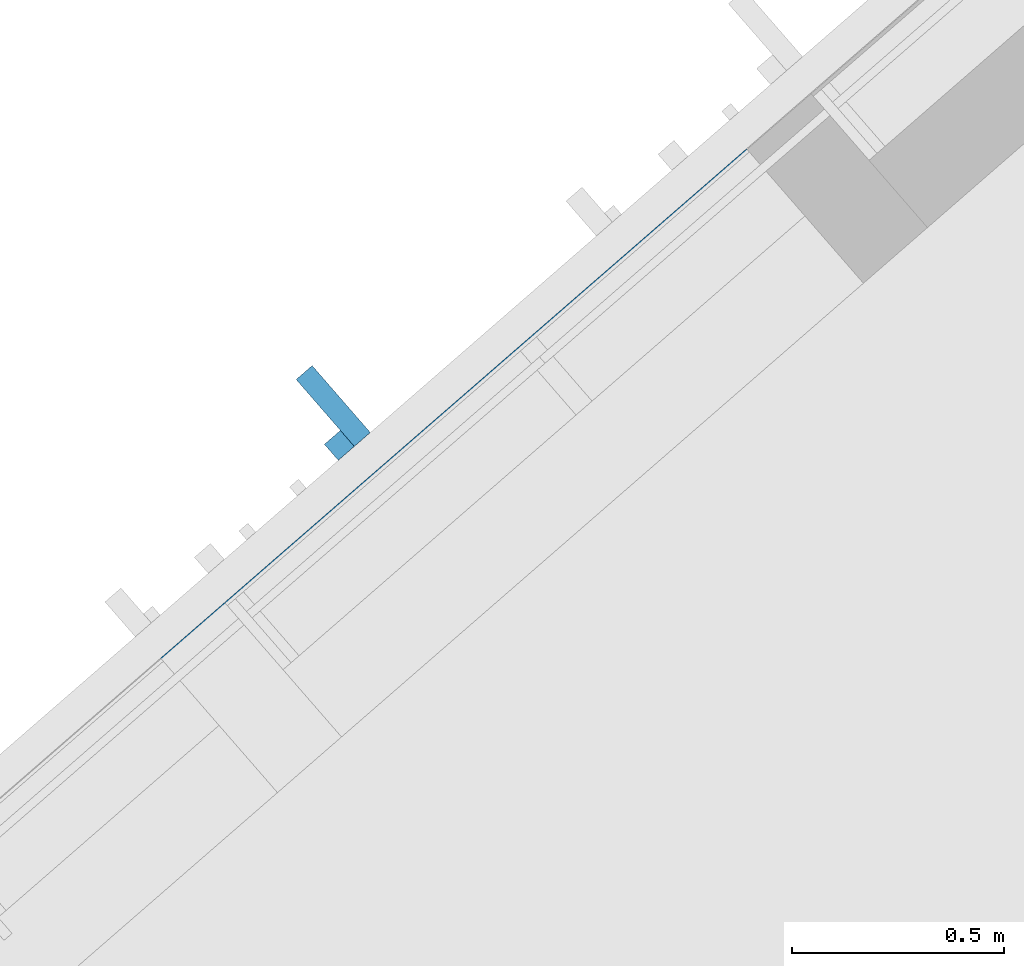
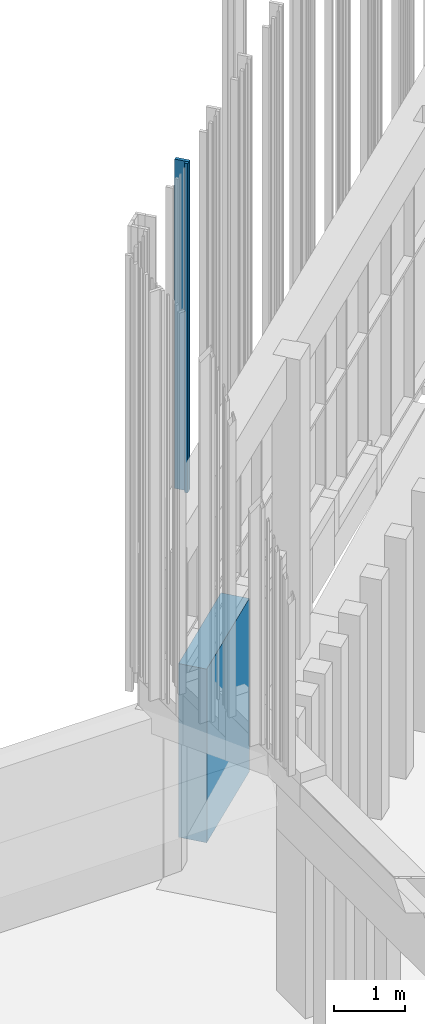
# One storey, part 134 of 390: 3 walls.
"""IFC2X3 building model written with IfcOpenShell, lengths in millimetres."""

from ifc_helpers import new_model, entity, si_unit, converted_unit, derived_unit, money_unit, direction, frame, origin_with_axes, place, context, subcontext, project, spatial, faceted_brep, material, material_list, type_object, element, save


model = new_model("IFC2X3")

# Units and contexts
model_context = context("Model", 3, precision=1e-05, world=origin_with_axes(), true_north=direction((0.0, 1.0)))
body_context = subcontext(model_context, "Body", "Model", "MODEL_VIEW")
ifc_project = project(units=[si_unit("LENGTHUNIT", "METRE", prefix="MILLI"), si_unit("AREAUNIT", "SQUARE_METRE"), si_unit("VOLUMEUNIT", "CUBIC_METRE"), converted_unit("PLANEANGLEUNIT", "DEGREE", entity("IfcPlaneAngleMeasure", 0.0174532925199), si_unit("PLANEANGLEUNIT", "RADIAN"), dimensions=[0, 0, 0, 0, 0, 0, 0]), si_unit("SOLIDANGLEUNIT", "STERADIAN"), money_unit("EUR"), converted_unit("TIMEUNIT", "Year", entity("IfcTimeMeasure", 31556926.0), si_unit("TIMEUNIT", "SECOND"), dimensions=[0, 0, 1, 0, 0, 0, 0]), si_unit("MASSUNIT", "GRAM", prefix="KILO"), si_unit("THERMODYNAMICTEMPERATUREUNIT", "DEGREE_CELSIUS"), si_unit("LUMINOUSINTENSITYUNIT", "LUMEN"), si_unit("ENERGYUNIT", "JOULE", prefix="MEGA"), derived_unit("THERMALCONDUCTANCEUNIT", [(si_unit("POWERUNIT", "WATT"), 1), (si_unit("LENGTHUNIT", "METRE"), -1), (si_unit("THERMODYNAMICTEMPERATUREUNIT", "KELVIN"), -1)]), derived_unit("SPECIFICHEATCAPACITYUNIT", [(si_unit("ENERGYUNIT", "JOULE"), 1), (si_unit("MASSUNIT", "GRAM", prefix="KILO"), -1), (si_unit("THERMODYNAMICTEMPERATUREUNIT", "KELVIN"), -1)]), derived_unit("MASSDENSITYUNIT", [(si_unit("MASSUNIT", "GRAM", prefix="KILO"), 1), (si_unit("VOLUMEUNIT", "CUBIC_METRE"), -1)])], contexts=[model_context])

# Site, building, storey
site_placement = place(None, origin_with_axes())
site = spatial("IfcSite", under=ifc_project, at=site_placement, Name="Site", CompositionType="ELEMENT")
building_placement = place(site_placement, origin_with_axes())
building = spatial("IfcBuilding", under=site, at=building_placement, Name="Building", CompositionType="ELEMENT")
storey_placement = place(building_placement, origin_with_axes())
storey = spatial("IfcBuildingStorey", under=building, at=storey_placement, Name="1 korrus", CompositionType="ELEMENT", Elevation=0.0)

# Walls
ifc_material_1 = material(Name="Krohv - Lubjakivi")
ifc_material_2 = material(Name="Raudbetoon - Konstruktsioon")
ifc_material_3 = material(Name="Soojustus - Plastik Kõva")
ifc_material_4 = material(Name="Membraan - Veekindel")
ifc_material_list = material_list([ifc_material_1, ifc_material_2, ifc_material_3, ifc_material_3, ifc_material_4, ifc_material_4])
wall_type_1 = type_object("IfcWallType", Name="VS-03", PredefinedType="NOTDEFINED")
wall_1_placement = place(storey_placement, frame((125468.871648, 78413.1851766, -1220.0), z_axis=(0.0, 0.0, 1.0), x_axis=(-0.754709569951, -0.656059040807, 0.0)))
element("IfcWall", 1, at=wall_1_placement, inside=storey, type_object=wall_type_1, material=ifc_material_list, Name="VS-03", context=body_context, shape_type="Brep", body=[
    faceted_brep([(1829.99999353, -10.0, 2970.0), (1829.99999353, 0.0, 2970.0), (0.0, 0.0, 2970.0), (0.0, -9.99999999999, 2970.0), (1829.99999353, -10.0, 0.0), (1829.99999353, 0.0, 0.0), (0.0, 0.0, 0.0), (0.0, -9.99999999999, 0.0)], [[[0, 1, 2, 3]], [[0, 4, 5, 1]], [[1, 5, 6, 2]], [[3, 2, 6, 7]], [[4, 0, 3, 7]], [[5, 4, 7, 6]]]),
    faceted_brep([(1829.99999353, -210.0, 2970.0), (1829.99999353, -10.0, 2970.0), (0.0, -9.99999999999, 2970.0), (0.0, -210.0, 2970.0), (1829.99999353, -210.0, 0.0), (1829.99999353, -10.0, 0.0), (0.0, -9.99999999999, 0.0), (0.0, -210.0, 0.0)], [[[0, 1, 2, 3]], [[0, 4, 5, 1]], [[1, 5, 6, 2]], [[3, 2, 6, 7]], [[4, 0, 3, 7]], [[5, 4, 7, 6]]]),
    faceted_brep([(1829.99999353, -360.0, 2970.0), (1829.99999353, -210.0, 2970.0), (0.0, -210.0, 2970.0), (0.0, -360.0, 2970.0), (1829.99999353, -360.0, 0.0), (1829.99999353, -210.0, 0.0), (0.0, -210.0, 0.0), (0.0, -360.0, 0.0)], [[[0, 1, 2, 3]], [[0, 4, 5, 1]], [[1, 5, 6, 2]], [[3, 2, 6, 7]], [[4, 0, 3, 7]], [[5, 4, 7, 6]]]),
    faceted_brep([(1829.99999353, -410.0, 2970.0), (1829.99999353, -360.0, 2970.0), (0.0, -360.0, 2970.0), (0.0, -410.0, 2970.0), (1829.99999353, -410.0, 0.0), (1829.99999353, -360.0, 0.0), (0.0, -360.0, 0.0), (0.0, -410.0, 0.0)], [[[0, 1, 2, 3]], [[0, 4, 5, 1]], [[1, 5, 6, 2]], [[3, 2, 6, 7]], [[4, 0, 3, 7]], [[5, 4, 7, 6]]]),
    faceted_brep([(1829.99999353, -415.0, 2970.0), (1829.99999353, -410.0, 2970.0), (0.0, -410.0, 2970.0), (0.0, -415.0, 2970.0), (1829.99999353, -415.0, 0.0), (1829.99999353, -410.0, 0.0), (0.0, -410.0, 0.0), (0.0, -415.0, 0.0)], [[[0, 1, 2, 3]], [[0, 4, 5, 1]], [[1, 5, 6, 2]], [[3, 2, 6, 7]], [[4, 0, 3, 7]], [[5, 4, 7, 6]]]),
    faceted_brep([(1829.99999353, -420.0, 2970.0), (1829.99999353, -415.0, 2970.0), (0.0, -415.0, 2970.0), (0.0, -420.0, 2970.0), (1829.99999353, -420.0, 0.0), (1829.99999353, -415.0, 0.0), (0.0, -415.0, 0.0), (0.0, -420.0, 0.0)], [[[0, 1, 2, 3]], [[0, 4, 5, 1]], [[1, 5, 6, 2]], [[3, 2, 6, 7]], [[4, 0, 3, 7]], [[5, 4, 7, 6]]]),
])
ifc_material_5 = material(Name="Site specified")
wall_type_2 = type_object("IfcWallType", Name="Puitfassaadi ribistik", PredefinedType="NOTDEFINED")
wall_2_placement = place(storey_placement, frame((124233.587433, 78031.0257324, 4235.01600461), z_axis=(0.0, 0.0, 1.0), x_axis=(0.754709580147, 0.656059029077, 0.0)))
element("IfcWall", 2, at=wall_2_placement, inside=storey, type_object=wall_type_2, material=ifc_material_5, Name="Site specified", context=body_context, shape_type="Brep", body=[
    faceted_brep([(25.0, 25.0, 5629.98399539), (25.0, 25.0, 0.0), (-25.0, 25.0, 0.0), (-25.0, 25.0, 5629.98399539), (25.0, -25.0, 5629.98399539), (25.0, -25.0, 0.0), (-25.0, -25.0, 0.0), (-25.0, -25.0, 5629.98399539)], [[[0, 1, 2, 3]], [[4, 5, 1, 0]], [[2, 1, 5, 6]], [[3, 2, 6, 7]], [[4, 0, 3, 7]], [[7, 6, 5, 4]]]),
])
wall_3_placement = place(storey_placement, frame((124219.166219, 78123.8280955, 4235.01600461), z_axis=(0.0, 0.0, 1.0), x_axis=(0.754709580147, 0.656059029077, 0.0)))
element("IfcWall", 3, at=wall_3_placement, inside=storey, type_object=wall_type_2, material=ifc_material_5, Name="Site specified", context=body_context, shape_type="Brep", body=[
    faceted_brep([(25.0, 104.5, 5629.98399539), (25.0, 104.5, 0.0), (-25.0, 104.5, 0.0), (-25.0, 104.5, 5629.98399539), (25.0, -104.5, 5629.98399539), (25.0, -104.5, 0.0), (-25.0, -104.5, 0.0), (-25.0, -104.5, 5629.98399539)], [[[0, 1, 2, 3]], [[4, 5, 1, 0]], [[2, 1, 5, 6]], [[3, 2, 6, 7]], [[4, 0, 3, 7]], [[7, 6, 5, 4]]]),
])

save(model, "model.ifc")
